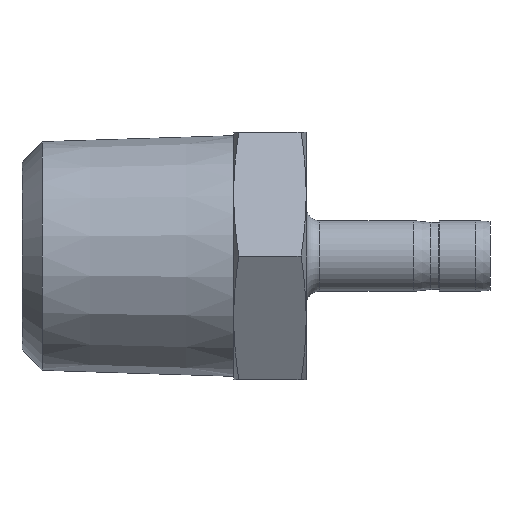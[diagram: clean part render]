
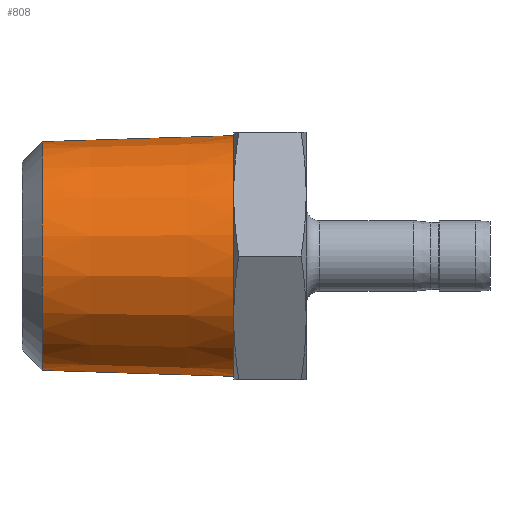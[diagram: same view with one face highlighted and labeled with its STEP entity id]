
A CAD part, front view. The second image highlights one B-rep face of the part: STEP entity #808.
In plain terms, the highlighted conical face has half-angle 1.8 degrees and reference radius 10.459 mm.
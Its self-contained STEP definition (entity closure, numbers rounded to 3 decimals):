
#526 = DIRECTION ( 'NONE',  ( 0., 0., 1. ) ) ;
#527 = DIRECTION ( 'NONE',  ( 1., 0., 0. ) ) ;
#528 = CARTESIAN_POINT ( 'NONE',  ( -10.87, 0., 0. ) ) ;
#529 = AXIS2_PLACEMENT_3D ( 'NONE', #528, #527, #526 ) ;
#531 = CONICAL_SURFACE ( 'NONE', #529, 10.459, 0.031 ) ;
#532 = FACE_OUTER_BOUND ( 'NONE', #809, .T. ) ;
#632 = CARTESIAN_POINT ( 'NONE',  ( -17.201, 0., -10.26 ) ) ;
#633 = CARTESIAN_POINT ( 'NONE',  ( -17.201, 0., 10.26 ) ) ;
#694 = CARTESIAN_POINT ( 'NONE',  ( -10.87, 0., 10.459 ) ) ;
#695 = LINE ( 'NONE', #694, #726 ) ;
#725 = DIRECTION ( 'NONE',  ( 1., 0., 0.031 ) ) ;
#726 = VECTOR ( 'NONE', #725, 1000. ) ;
#737 = DIRECTION ( 'NONE',  ( 0., 0., -1. ) ) ;
#738 = DIRECTION ( 'NONE',  ( 1., 0., 0. ) ) ;
#739 = CARTESIAN_POINT ( 'NONE',  ( -17.201, 0., 0. ) ) ;
#740 = AXIS2_PLACEMENT_3D ( 'NONE', #739, #738, #737 ) ;
#741 = CIRCLE ( 'NONE', #740, 10.26 ) ;
#749 = LINE ( 'NONE', #775, #774 ) ;
#766 = CARTESIAN_POINT ( 'NONE',  ( 0., 0., 10.8 ) ) ;
#767 = DIRECTION ( 'NONE',  ( 0., 0., -1. ) ) ;
#768 = DIRECTION ( 'NONE',  ( -1., 0., 0. ) ) ;
#769 = CARTESIAN_POINT ( 'NONE',  ( 0., 0., 0. ) ) ;
#770 = AXIS2_PLACEMENT_3D ( 'NONE', #769, #768, #767 ) ;
#771 = CIRCLE ( 'NONE', #770, 10.8 ) ;
#772 = CARTESIAN_POINT ( 'NONE',  ( 0., 0., -10.8 ) ) ;
#773 = DIRECTION ( 'NONE',  ( 1., 0., -0.031 ) ) ;
#774 = VECTOR ( 'NONE', #773, 1000. ) ;
#775 = CARTESIAN_POINT ( 'NONE',  ( -10.87, 0., -10.459 ) ) ;
#808 = ADVANCED_FACE ( 'NONE', ( #532 ), #531, .T. ) ;
#809 = EDGE_LOOP ( 'NONE', ( #810, #935, #938, #904 ) ) ;
#810 = ORIENTED_EDGE ( 'NONE', *, *, #934, .T. ) ;
#857 = VERTEX_POINT ( 'NONE', #633 ) ;
#858 = VERTEX_POINT ( 'NONE', #632 ) ;
#904 = ORIENTED_EDGE ( 'NONE', *, *, #905, .F. ) ;
#905 = EDGE_CURVE ( 'NONE', #857, #940, #695, .T. ) ;
#934 = EDGE_CURVE ( 'NONE', #857, #858, #741, .T. ) ;
#935 = ORIENTED_EDGE ( 'NONE', *, *, #936, .T. ) ;
#936 = EDGE_CURVE ( 'NONE', #858, #937, #749, .T. ) ;
#937 = VERTEX_POINT ( 'NONE', #772 ) ;
#938 = ORIENTED_EDGE ( 'NONE', *, *, #939, .T. ) ;
#939 = EDGE_CURVE ( 'NONE', #937, #940, #771, .T. ) ;
#940 = VERTEX_POINT ( 'NONE', #766 ) ;
